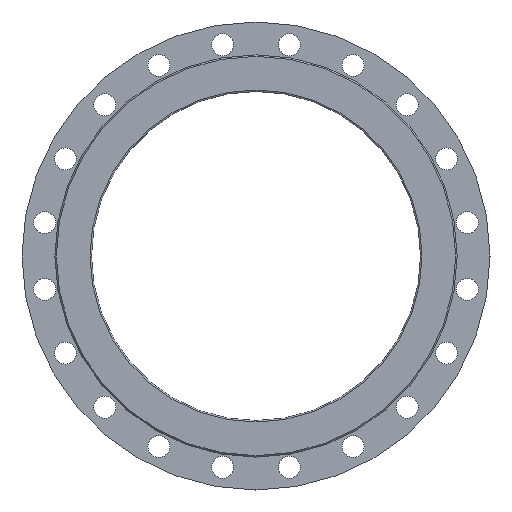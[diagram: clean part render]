
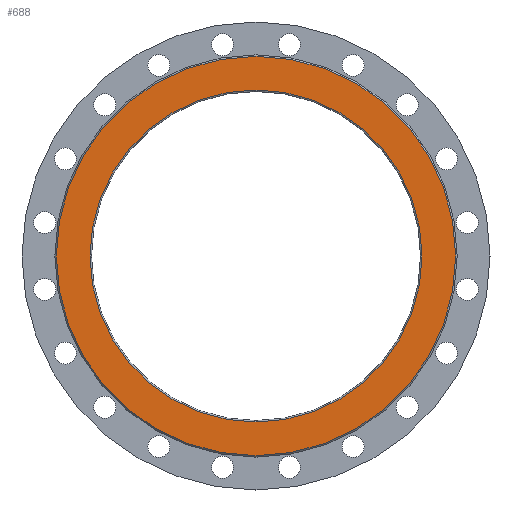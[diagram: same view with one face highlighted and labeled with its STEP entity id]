
A CAD part, left-side view. The second image highlights one B-rep face of the part: STEP entity #688.
In plain terms, the highlighted planar face has unit normal (-1, 0, 0).
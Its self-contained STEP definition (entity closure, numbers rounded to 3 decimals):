
#634 = ORIENTED_EDGE ( 'NONE', *, *, #720, .T. ) ;
#637 = ORIENTED_EDGE ( 'NONE', *, *, #1158, .T. ) ;
#673 = ORIENTED_EDGE ( 'NONE', *, *, #721, .T. ) ;
#687 = EDGE_LOOP ( 'NONE', ( #637, #673 ) ) ;
#688 = ADVANCED_FACE ( 'NONE', ( #2649, #2730 ), #2736, .F. ) ;
#709 = EDGE_LOOP ( 'NONE', ( #634, #719 ) ) ;
#719 = ORIENTED_EDGE ( 'NONE', *, *, #972, .T. ) ;
#720 = EDGE_CURVE ( 'NONE', #960, #959, #2785, .T. ) ;
#721 = EDGE_CURVE ( 'NONE', #1098, #1131, #2780, .T. ) ;
#959 = VERTEX_POINT ( 'NONE', #2935 ) ;
#960 = VERTEX_POINT ( 'NONE', #2946 ) ;
#972 = EDGE_CURVE ( 'NONE', #959, #960, #3093, .T. ) ;
#1098 = VERTEX_POINT ( 'NONE', #2930 ) ;
#1131 = VERTEX_POINT ( 'NONE', #3256 ) ;
#1158 = EDGE_CURVE ( 'NONE', #1131, #1098, #3306, .T. ) ;
#2649 = FACE_OUTER_BOUND ( 'NONE', #709, .T. ) ;
#2705 = AXIS2_PLACEMENT_3D ( 'NONE', #2725, #2724, #2723 ) ;
#2714 = AXIS2_PLACEMENT_3D ( 'NONE', #2777, #2776, #2775 ) ;
#2723 = DIRECTION ( 'NONE',  ( 0., 0., -1. ) ) ;
#2724 = DIRECTION ( 'NONE',  ( 1., 0., 0. ) ) ;
#2725 = CARTESIAN_POINT ( 'NONE',  ( -100., 275., 0. ) ) ;
#2730 = FACE_BOUND ( 'NONE', #687, .T. ) ;
#2736 = PLANE ( 'NONE',  #2705 ) ;
#2775 = DIRECTION ( 'NONE',  ( 0., 0., -1. ) ) ;
#2776 = DIRECTION ( 'NONE',  ( 1., 0., 0. ) ) ;
#2777 = CARTESIAN_POINT ( 'NONE',  ( -100., 0., 0. ) ) ;
#2780 = CIRCLE ( 'NONE', #2714, 227. ) ;
#2781 = DIRECTION ( 'NONE',  ( 0., 0., -1. ) ) ;
#2782 = DIRECTION ( 'NONE',  ( -1., 0., 0. ) ) ;
#2783 = CARTESIAN_POINT ( 'NONE',  ( -100., 0., 0. ) ) ;
#2784 = AXIS2_PLACEMENT_3D ( 'NONE', #2783, #2782, #2781 ) ;
#2785 = CIRCLE ( 'NONE', #2784, 273. ) ;
#2930 = CARTESIAN_POINT ( 'NONE',  ( -100., 0., 227. ) ) ;
#2935 = CARTESIAN_POINT ( 'NONE',  ( -100., 0., 273. ) ) ;
#2946 = CARTESIAN_POINT ( 'NONE',  ( -100., 0., -273. ) ) ;
#3092 = AXIS2_PLACEMENT_3D ( 'NONE', #3197, #3196, #3195 ) ;
#3093 = CIRCLE ( 'NONE', #3092, 273. ) ;
#3195 = DIRECTION ( 'NONE',  ( 0., 0., -1. ) ) ;
#3196 = DIRECTION ( 'NONE',  ( -1., 0., 0. ) ) ;
#3197 = CARTESIAN_POINT ( 'NONE',  ( -100., 0., 0. ) ) ;
#3256 = CARTESIAN_POINT ( 'NONE',  ( -100., 0., -227. ) ) ;
#3303 = DIRECTION ( 'NONE',  ( 0., 0., -1. ) ) ;
#3304 = DIRECTION ( 'NONE',  ( 1., 0., 0. ) ) ;
#3305 = CARTESIAN_POINT ( 'NONE',  ( -100., 0., 0. ) ) ;
#3306 = CIRCLE ( 'NONE', #3313, 227. ) ;
#3313 = AXIS2_PLACEMENT_3D ( 'NONE', #3305, #3304, #3303 ) ;
